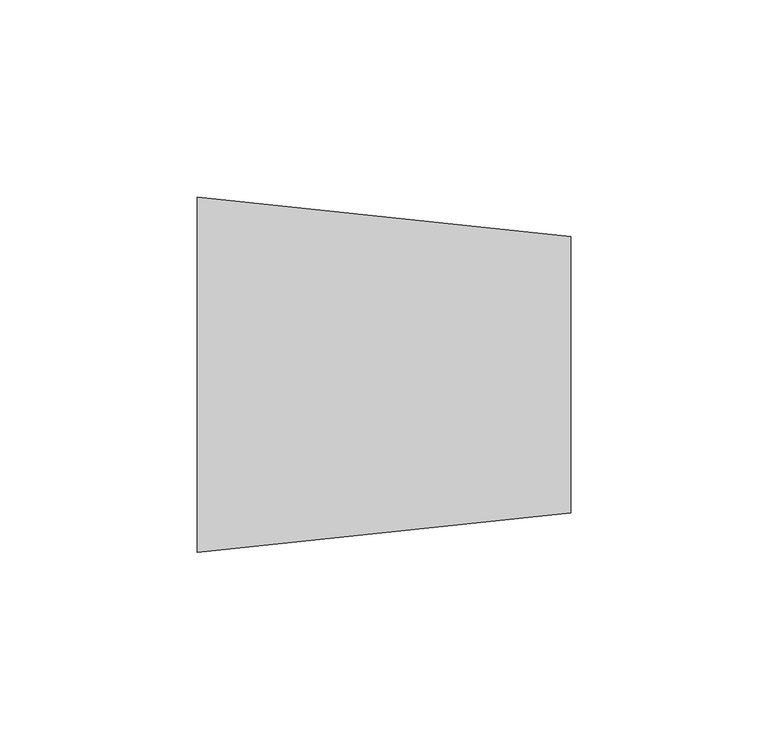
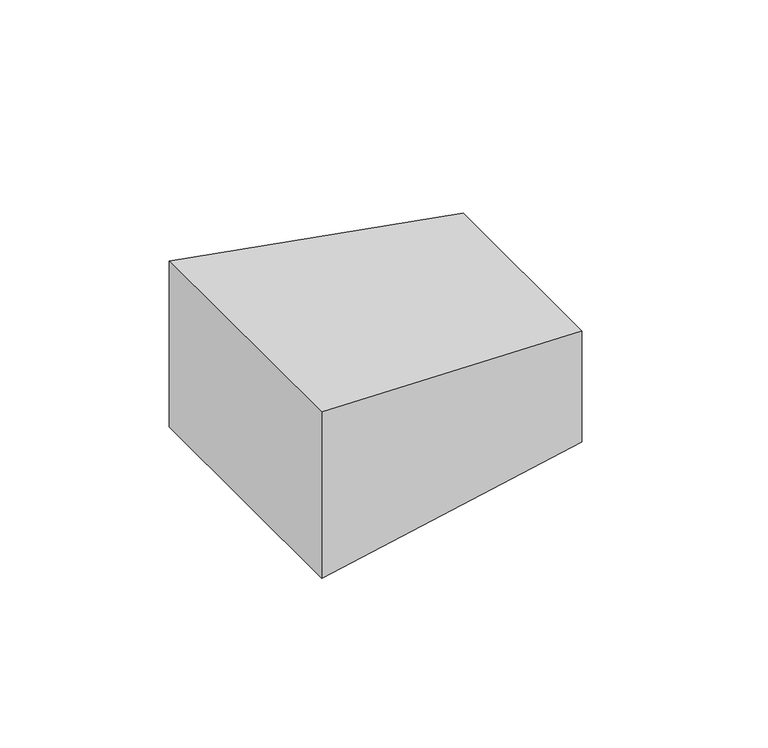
"""IFC4 building model written with IfcOpenShell, lengths in millimetres: duct fitting geometry, КНС_Переходники_DKC : Переходники_DKC."""

from ifc_helpers import new_model, si_unit, origin, place, context, project, spatial, faceted_brep, source, transform, mapped, element, save


def duct_fitting_b46aa33a(model_context):
    return source(origin(), model_context, "Body", "Brep", [
        faceted_brep([(94.5, -35.0, 20.1437767), (94.5, -35.0, -19.8562233), (94.5, 35.0, -19.8562233), (94.5, 35.0, 20.1437767), (0.0, -45.0, 30.0), (0.0, 45.0, 30.0), (0.0, 45.0, -30.0), (0.0, -45.0, -30.0)], [[[0, 1, 2, 3]], [[4, 5, 6, 7]], [[4, 7, 1, 0]], [[7, 6, 2, 1]], [[6, 5, 3, 2]], [[5, 4, 0, 3]]]),
    ])


if __name__ == "__main__":
    model = new_model("IFC4")
    model_context = context("Model", 3, world=origin())
    ifc_project = project(units=[si_unit("LENGTHUNIT", "METRE", prefix="MILLI")], contexts=[model_context])
    site = spatial("IfcSite", under=ifc_project)
    building = spatial("IfcBuilding", under=site)
    placement = place(None, origin())
    duct_fitting_shape = duct_fitting_b46aa33a(model_context)
    element("IfcDuctFitting", 1, ObjectType="КНС_Переходники_DKC : Переходники_DKC", at=placement, inside=building, context=model_context, shape_type="MappedRepresentation", body=[
        mapped(duct_fitting_shape, transform((0.0, 0.0, 0.0), x_axis=(1.0, 0.0, 0.0), y_axis=(0.0, 1.0, 0.0), z_axis=(0.0, 0.0, 1.0))),
    ])
    save(model, "model.ifc")
